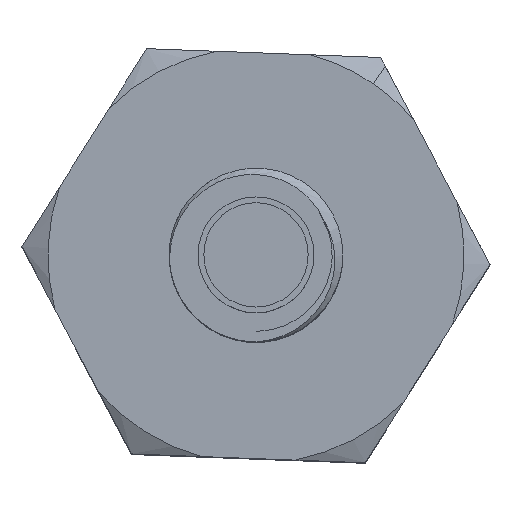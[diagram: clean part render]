
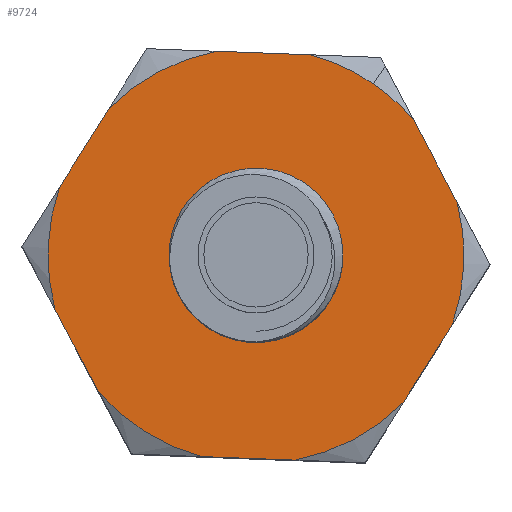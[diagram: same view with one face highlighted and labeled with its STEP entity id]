
A CAD part, top view. The second image highlights one B-rep face of the part: STEP entity #9724.
In plain terms, the highlighted planar face has unit normal (0, 0, 1).
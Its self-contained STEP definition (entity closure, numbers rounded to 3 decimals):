
#79 = LINE ( 'NONE', #10874, #11389 ) ;
#282 = EDGE_CURVE ( 'NONE', #16170, #16168, #14759, .T. ) ;
#460 = DIRECTION ( 'NONE',  ( 0.564, 0.826, 0. ) ) ;
#667 = EDGE_CURVE ( 'NONE', #10725, #8973, #4422, .T. ) ;
#720 = CARTESIAN_POINT ( 'NONE',  ( 0., 0., 9.981 ) ) ;
#922 = VERTEX_POINT ( 'NONE', #2249 ) ;
#940 = DIRECTION ( 'NONE',  ( 0.564, 0.826, 0. ) ) ;
#1383 = CARTESIAN_POINT ( 'NONE',  ( 4.039, -0.152, 9.981 ) ) ;
#1528 = VERTEX_POINT ( 'NONE', #16916 ) ;
#1816 = EDGE_LOOP ( 'NONE', ( #2768, #19890, #9086, #9530, #2859, #18650, #4470, #19468, #12159, #15397, #4722, #3752, #11573 ) ) ;
#1910 = CARTESIAN_POINT ( 'NONE',  ( -0.936, -3.467, 9.981 ) ) ;
#2173 = CARTESIAN_POINT ( 'NONE',  ( 0., 0., 9.981 ) ) ;
#2193 = VERTEX_POINT ( 'NONE', #16323 ) ;
#2199 = AXIS2_PLACEMENT_3D ( 'NONE', #4044, #7498, #20110 ) ;
#2249 = CARTESIAN_POINT ( 'NONE',  ( -2.534, 2.545, 9.981 ) ) ;
#2510 = CARTESIAN_POINT ( 'NONE',  ( 0.673, -3.528, 9.981 ) ) ;
#2654 = CARTESIAN_POINT ( 'NONE',  ( 2.151, 3.421, 9.981 ) ) ;
#2695 = EDGE_CURVE ( 'NONE', #3208, #17831, #15711, .T. ) ;
#2737 = FACE_BOUND ( 'NONE', #10447, .T. ) ;
#2768 = ORIENTED_EDGE ( 'NONE', *, *, #13166, .F. ) ;
#2851 = DIRECTION ( 'NONE',  ( 0., 0., -1. ) ) ;
#2859 = ORIENTED_EDGE ( 'NONE', *, *, #8518, .F. ) ;
#2887 = DIRECTION ( 'NONE',  ( 0., 0., -1. ) ) ;
#3073 = VERTEX_POINT ( 'NONE', #9122 ) ;
#3120 = CIRCLE ( 'NONE', #13893, 3.591 ) ;
#3208 = VERTEX_POINT ( 'NONE', #14586 ) ;
#3608 = CARTESIAN_POINT ( 'NONE',  ( -2.719, -2.346, 9.981 ) ) ;
#3624 = EDGE_CURVE ( 'NONE', #17831, #13139, #3120, .T. ) ;
#3752 = ORIENTED_EDGE ( 'NONE', *, *, #3624, .F. ) ;
#3880 = DIRECTION ( 'NONE',  ( 0.564, 0.826, 0. ) ) ;
#3931 = VECTOR ( 'NONE', #15987, 1000. ) ;
#4044 = CARTESIAN_POINT ( 'NONE',  ( 0., 0., 9.981 ) ) ;
#4078 = CARTESIAN_POINT ( 'NONE',  ( 2.025, 2.966, 9.981 ) ) ;
#4191 = CARTESIAN_POINT ( 'NONE',  ( 0., 0., 9.981 ) ) ;
#4361 = DIRECTION ( 'NONE',  ( 0.564, 0.826, 0. ) ) ;
#4394 = DIRECTION ( 'NONE',  ( 0.564, 0.826, 0. ) ) ;
#4422 = CIRCLE ( 'NONE', #9425, 1.5 ) ;
#4445 = DIRECTION ( 'NONE',  ( 0.564, 0.826, 0. ) ) ;
#4470 = ORIENTED_EDGE ( 'NONE', *, *, #8840, .F. ) ;
#4722 = ORIENTED_EDGE ( 'NONE', *, *, #19470, .F. ) ;
#4880 = CARTESIAN_POINT ( 'NONE',  ( 0.846, 1.239, 9.981 ) ) ;
#5246 = AXIS2_PLACEMENT_3D ( 'NONE', #6933, #19749, #3880 ) ;
#5508 = CIRCLE ( 'NONE', #2199, 3.591 ) ;
#5901 = DIRECTION ( 'NONE',  ( 0.467, -0.884, 0. ) ) ;
#5984 = AXIS2_PLACEMENT_3D ( 'NONE', #6758, #17830, #9839 ) ;
#6408 = CARTESIAN_POINT ( 'NONE',  ( -1.887, 3.574, 9.981 ) ) ;
#6598 = EDGE_CURVE ( 'NONE', #15046, #12298, #7785, .T. ) ;
#6758 = CARTESIAN_POINT ( 'NONE',  ( 0., 0., 9.981 ) ) ;
#6933 = CARTESIAN_POINT ( 'NONE',  ( 0., 0., 9.981 ) ) ;
#7135 = DIRECTION ( 'NONE',  ( 0.564, 0.826, 0. ) ) ;
#7228 = ORIENTED_EDGE ( 'NONE', *, *, #14234, .T. ) ;
#7358 = VECTOR ( 'NONE', #17622, 1000. ) ;
#7498 = DIRECTION ( 'NONE',  ( 0., 0., -1. ) ) ;
#7616 = ORIENTED_EDGE ( 'NONE', *, *, #667, .T. ) ;
#7770 = DIRECTION ( 'NONE',  ( -0.467, 0.884, 0. ) ) ;
#7785 = CIRCLE ( 'NONE', #20445, 3.591 ) ;
#8388 = AXIS2_PLACEMENT_3D ( 'NONE', #4191, #2851, #4394 ) ;
#8461 = VERTEX_POINT ( 'NONE', #12572 ) ;
#8518 = EDGE_CURVE ( 'NONE', #1528, #16170, #16118, .T. ) ;
#8557 = DIRECTION ( 'NONE',  ( 0., 0., -1. ) ) ;
#8840 = EDGE_CURVE ( 'NONE', #8461, #922, #14343, .T. ) ;
#8973 = VERTEX_POINT ( 'NONE', #4880 ) ;
#8990 = VECTOR ( 'NONE', #7770, 1000. ) ;
#9086 = ORIENTED_EDGE ( 'NONE', *, *, #15713, .F. ) ;
#9122 = CARTESIAN_POINT ( 'NONE',  ( 3.471, 0.923, 9.981 ) ) ;
#9425 = AXIS2_PLACEMENT_3D ( 'NONE', #20631, #2887, #4361 ) ;
#9530 = ORIENTED_EDGE ( 'NONE', *, *, #282, .F. ) ;
#9724 = ADVANCED_FACE ( 'NONE', ( #2737, #20305 ), #10053, .F. ) ;
#9839 = DIRECTION ( 'NONE',  ( 0.564, 0.826, 0. ) ) ;
#10053 = PLANE ( 'NONE',  #5984 ) ;
#10073 = EDGE_CURVE ( 'NONE', #922, #1528, #5508, .T. ) ;
#10241 = LINE ( 'NONE', #10778, #8990 ) ;
#10447 = EDGE_LOOP ( 'NONE', ( #7616, #7228 ) ) ;
#10709 = CARTESIAN_POINT ( 'NONE',  ( 2.719, 2.346, 9.981 ) ) ;
#10723 = CARTESIAN_POINT ( 'NONE',  ( 0., 0., 9.981 ) ) ;
#10725 = VERTEX_POINT ( 'NONE', #17699 ) ;
#10778 = CARTESIAN_POINT ( 'NONE',  ( -2.151, -3.421, 9.981 ) ) ;
#10797 = CARTESIAN_POINT ( 'NONE',  ( -4.039, 0.152, 9.981 ) ) ;
#10874 = CARTESIAN_POINT ( 'NONE',  ( 1.887, -3.574, 9.981 ) ) ;
#11389 = VECTOR ( 'NONE', #17317, 1000. ) ;
#11573 = ORIENTED_EDGE ( 'NONE', *, *, #2695, .F. ) ;
#12159 = ORIENTED_EDGE ( 'NONE', *, *, #17350, .F. ) ;
#12298 = VERTEX_POINT ( 'NONE', #3608 ) ;
#12491 = EDGE_CURVE ( 'NONE', #2193, #8461, #15162, .T. ) ;
#12572 = CARTESIAN_POINT ( 'NONE',  ( -3.392, 1.181, 9.981 ) ) ;
#12992 = AXIS2_PLACEMENT_3D ( 'NONE', #2173, #15158, #13435 ) ;
#13067 = EDGE_CURVE ( 'NONE', #17309, #3073, #15779, .T. ) ;
#13139 = VERTEX_POINT ( 'NONE', #2510 ) ;
#13166 = EDGE_CURVE ( 'NONE', #3073, #3208, #14562, .T. ) ;
#13435 = DIRECTION ( 'NONE',  ( 0.564, 0.826, 0. ) ) ;
#13756 = DIRECTION ( 'NONE',  ( 0., 0., -1. ) ) ;
#13893 = AXIS2_PLACEMENT_3D ( 'NONE', #720, #8557, #460 ) ;
#14234 = EDGE_CURVE ( 'NONE', #8973, #10725, #15242, .T. ) ;
#14251 = AXIS2_PLACEMENT_3D ( 'NONE', #10723, #13756, #940 ) ;
#14343 = LINE ( 'NONE', #10797, #20349 ) ;
#14562 = CIRCLE ( 'NONE', #14251, 3.591 ) ;
#14586 = CARTESIAN_POINT ( 'NONE',  ( 3.392, -1.181, 9.981 ) ) ;
#14759 = CIRCLE ( 'NONE', #5246, 3.591 ) ;
#15046 = VERTEX_POINT ( 'NONE', #1910 ) ;
#15158 = DIRECTION ( 'NONE',  ( 0., 0., -1. ) ) ;
#15162 = CIRCLE ( 'NONE', #19191, 3.591 ) ;
#15242 = CIRCLE ( 'NONE', #8388, 1.5 ) ;
#15397 = ORIENTED_EDGE ( 'NONE', *, *, #6598, .F. ) ;
#15431 = DIRECTION ( 'NONE',  ( 0.532, 0.847, 0. ) ) ;
#15537 = VECTOR ( 'NONE', #5901, 1000. ) ;
#15711 = LINE ( 'NONE', #1383, #3931 ) ;
#15713 = EDGE_CURVE ( 'NONE', #16168, #17309, #18161, .T. ) ;
#15779 = LINE ( 'NONE', #2654, #15537 ) ;
#15987 = DIRECTION ( 'NONE',  ( -0.532, -0.847, 0. ) ) ;
#16118 = LINE ( 'NONE', #6408, #7358 ) ;
#16168 = VERTEX_POINT ( 'NONE', #4078 ) ;
#16170 = VERTEX_POINT ( 'NONE', #16731 ) ;
#16323 = CARTESIAN_POINT ( 'NONE',  ( -3.471, -0.923, 9.981 ) ) ;
#16521 = DIRECTION ( 'NONE',  ( 0., 0., -1. ) ) ;
#16731 = CARTESIAN_POINT ( 'NONE',  ( 0.936, 3.467, 9.981 ) ) ;
#16916 = CARTESIAN_POINT ( 'NONE',  ( -0.673, 3.528, 9.981 ) ) ;
#17214 = DIRECTION ( 'NONE',  ( 0., 0., -1. ) ) ;
#17309 = VERTEX_POINT ( 'NONE', #10709 ) ;
#17317 = DIRECTION ( 'NONE',  ( -0.999, 0.038, 0. ) ) ;
#17350 = EDGE_CURVE ( 'NONE', #12298, #2193, #10241, .T. ) ;
#17622 = DIRECTION ( 'NONE',  ( 0.999, -0.038, 0. ) ) ;
#17699 = CARTESIAN_POINT ( 'NONE',  ( -0.846, -1.239, 9.981 ) ) ;
#17830 = DIRECTION ( 'NONE',  ( 0., 0., -1. ) ) ;
#17831 = VERTEX_POINT ( 'NONE', #17891 ) ;
#17891 = CARTESIAN_POINT ( 'NONE',  ( 2.534, -2.545, 9.981 ) ) ;
#18161 = CIRCLE ( 'NONE', #12992, 3.591 ) ;
#18650 = ORIENTED_EDGE ( 'NONE', *, *, #10073, .F. ) ;
#18824 = CARTESIAN_POINT ( 'NONE',  ( 0., 0., 9.981 ) ) ;
#19191 = AXIS2_PLACEMENT_3D ( 'NONE', #19750, #16521, #7135 ) ;
#19468 = ORIENTED_EDGE ( 'NONE', *, *, #12491, .F. ) ;
#19470 = EDGE_CURVE ( 'NONE', #13139, #15046, #79, .T. ) ;
#19749 = DIRECTION ( 'NONE',  ( 0., 0., -1. ) ) ;
#19750 = CARTESIAN_POINT ( 'NONE',  ( 0., 0., 9.981 ) ) ;
#19890 = ORIENTED_EDGE ( 'NONE', *, *, #13067, .F. ) ;
#20110 = DIRECTION ( 'NONE',  ( 0.564, 0.826, 0. ) ) ;
#20305 = FACE_OUTER_BOUND ( 'NONE', #1816, .T. ) ;
#20349 = VECTOR ( 'NONE', #15431, 1000. ) ;
#20445 = AXIS2_PLACEMENT_3D ( 'NONE', #18824, #17214, #4445 ) ;
#20631 = CARTESIAN_POINT ( 'NONE',  ( 0., 0., 9.981 ) ) ;
